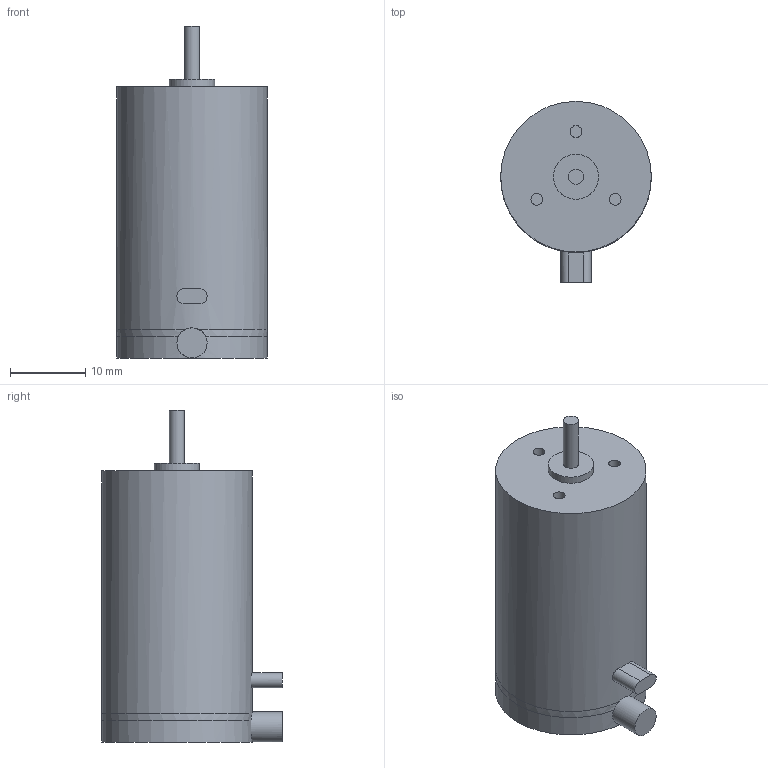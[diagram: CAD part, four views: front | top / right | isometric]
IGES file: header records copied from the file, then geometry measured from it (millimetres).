
Global section: file name: No Iges File Name specified; native system: Autodesk Inventor 2012; preprocessor: AutoDesk Inventor Iges Exporter R2012; author: mangiullo; date: 20130920.112013; units: millimetre
Bounding box: 20 x 24 x 44.1 mm (x, y, z)
Volume: 11425.7 mm3; surface area: 3084.2 mm2
Topology: 1 solids, 1 shells, 22 faces, 41 edges, 27 vertices
Faces by surface type: plane 11, cylinder 8, revolution 3
Full cylindrical faces by diameter (mm): 2 x1, 4 x1, 6 x1, 20 x2
